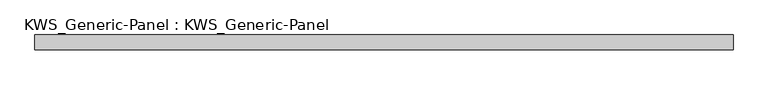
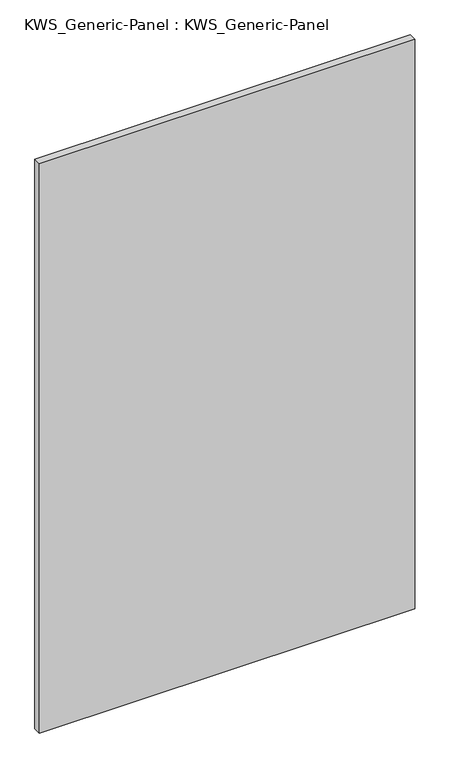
"""IFC4 building model written with IfcOpenShell, lengths in millimetres: plate geometry, KWS_Generic-Panel : KWS_Generic-Panel."""

from ifc_helpers import new_model, si_unit, frame, origin, place, context, project, spatial, polyline, outline, extrude, source, transform, mapped, element, save


def kws_generic_panel_kws_generic_panel_d79843ba(model_context):
    return source(origin(), model_context, "Body", "SweptSolid", [
        extrude(outline(polyline([(757.2375002, 0.0), (-757.2375002, 0.0), (-757.2375002, 31.75), (757.2375002, 31.75), (757.2375002, 0.0)])), frame((0.0, 0.0, 4.7625), z_axis=(0.0, 0.0, 1.0), x_axis=(1.0, 0.0, 0.0)), (0.0, 0.0, 1.0), 2428.875),
    ])


if __name__ == "__main__":
    model = new_model("IFC4")
    model_context = context("Model", 3, world=origin())
    ifc_project = project(units=[si_unit("LENGTHUNIT", "METRE", prefix="MILLI")], contexts=[model_context])
    site = spatial("IfcSite", under=ifc_project)
    building = spatial("IfcBuilding", under=site)
    placement = place(None, origin())
    kws_generic_panel_kws_generic_panel_shape = kws_generic_panel_kws_generic_panel_d79843ba(model_context)
    element("IfcPlate", 1, ObjectType="KWS_Generic-Panel : KWS_Generic-Panel", at=placement, inside=building, context=model_context, shape_type="MappedRepresentation", body=[
        mapped(kws_generic_panel_kws_generic_panel_shape, transform((0.0, 0.0, 0.0), x_axis=(1.0, 0.0, 0.0), y_axis=(0.0, 1.0, 0.0), z_axis=(0.0, 0.0, 1.0))),
    ])
    save(model, "model.ifc")
